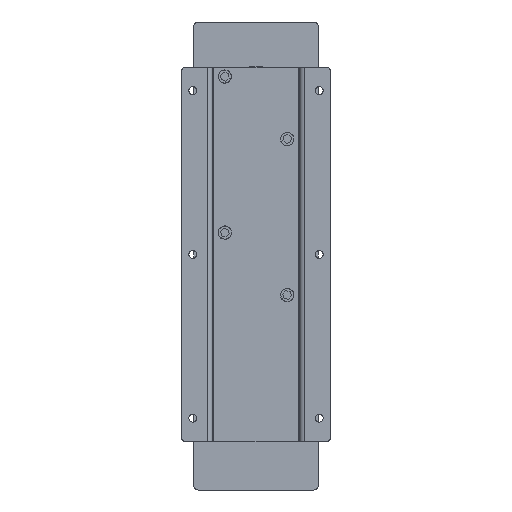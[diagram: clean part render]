
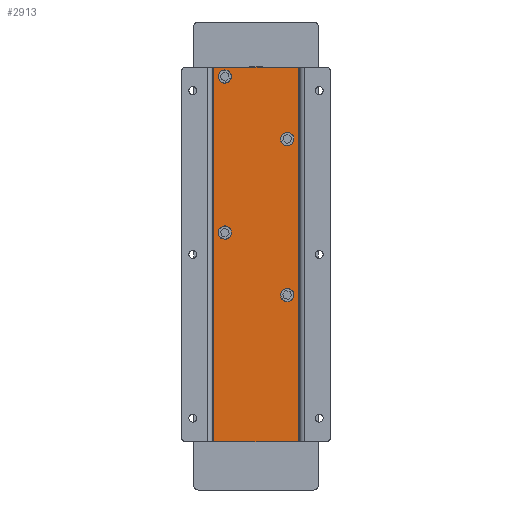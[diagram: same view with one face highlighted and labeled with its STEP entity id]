
A CAD part, left-side view. The second image highlights one B-rep face of the part: STEP entity #2913.
In plain terms, the highlighted planar face has unit normal (-1, 0, 0) as drawn and (0, 0, -1) by its records, which use the part's own axes.
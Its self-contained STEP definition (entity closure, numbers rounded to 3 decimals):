
#1100 = VERTEX_POINT ( 'NONE', #56157 ) ;
#1309 = DIRECTION ( 'NONE',  ( 1., 0., 0. ) ) ;
#1517 = DIRECTION ( 'NONE',  ( 0., 0., 1. ) ) ;
#2913 = ADVANCED_FACE ( 'NONE', ( #9020, #35696, #70942, #80184, #54189 ), #106247, .F. ) ;
#5431 = DIRECTION ( 'NONE',  ( 0., 0., 1. ) ) ;
#5525 = DIRECTION ( 'NONE',  ( 1., 0., 0. ) ) ;
#5997 = ORIENTED_EDGE ( 'NONE', *, *, #12697, .F. ) ;
#6297 = ORIENTED_EDGE ( 'NONE', *, *, #63717, .T. ) ;
#8879 = ORIENTED_EDGE ( 'NONE', *, *, #109573, .T. ) ;
#9020 = FACE_BOUND ( 'NONE', #103625, .T. ) ;
#9985 = CARTESIAN_POINT ( 'NONE',  ( -14., 20., -2. ) ) ;
#10864 = CARTESIAN_POINT ( 'NONE',  ( -110.75, 20., -2. ) ) ;
#12442 = VERTEX_POINT ( 'NONE', #81494 ) ;
#12697 = EDGE_CURVE ( 'NONE', #102023, #90568, #36306, .T. ) ;
#14645 = CIRCLE ( 'NONE', #79278, 3.25 ) ;
#14702 = ORIENTED_EDGE ( 'NONE', *, *, #37873, .T. ) ;
#14798 = CARTESIAN_POINT ( 'NONE',  ( -114., 20., -2. ) ) ;
#16177 = CARTESIAN_POINT ( 'NONE',  ( -120., 27., -2. ) ) ;
#16212 = EDGE_CURVE ( 'NONE', #63475, #105608, #68189, .T. ) ;
#17163 = ORIENTED_EDGE ( 'NONE', *, *, #83105, .F. ) ;
#17247 = ORIENTED_EDGE ( 'NONE', *, *, #68885, .F. ) ;
#18300 = DIRECTION ( 'NONE',  ( 0., 0., 1. ) ) ;
#18341 = DIRECTION ( 'NONE',  ( 0., 1., 0. ) ) ;
#19480 = CARTESIAN_POINT ( 'NONE',  ( -14., 20., -2. ) ) ;
#19806 = CARTESIAN_POINT ( 'NONE',  ( -17.25, 20., -2. ) ) ;
#20064 = DIRECTION ( 'NONE',  ( 0., 0., 1. ) ) ;
#20623 = CIRCLE ( 'NONE', #98241, 3.25 ) ;
#20744 = CARTESIAN_POINT ( 'NONE',  ( 26., -20., -2. ) ) ;
#21449 = AXIS2_PLACEMENT_3D ( 'NONE', #20744, #46792, #30593 ) ;
#22253 = AXIS2_PLACEMENT_3D ( 'NONE', #40778, #5431, #76023 ) ;
#23439 = AXIS2_PLACEMENT_3D ( 'NONE', #14798, #66902, #5525 ) ;
#24255 = CARTESIAN_POINT ( 'NONE',  ( -120., -27., -2. ) ) ;
#25190 = CIRCLE ( 'NONE', #21449, 3.25 ) ;
#26039 = CARTESIAN_POINT ( 'NONE',  ( -120., -27., -2. ) ) ;
#26591 = DIRECTION ( 'NONE',  ( 1., 0., 0. ) ) ;
#26669 = EDGE_CURVE ( 'NONE', #74527, #99713, #14645, .T. ) ;
#26739 = EDGE_CURVE ( 'NONE', #59026, #67546, #71868, .T. ) ;
#29381 = EDGE_CURVE ( 'NONE', #1100, #12442, #46296, .T. ) ;
#30593 = DIRECTION ( 'NONE',  ( 1., 0., 0. ) ) ;
#32177 = DIRECTION ( 'NONE',  ( 1., 0., 0. ) ) ;
#32308 = LINE ( 'NONE', #86013, #33210 ) ;
#33210 = VECTOR ( 'NONE', #57156, 1000. ) ;
#33594 = DIRECTION ( 'NONE',  ( 0., 0., 1. ) ) ;
#35593 = ORIENTED_EDGE ( 'NONE', *, *, #111538, .T. ) ;
#35696 = FACE_BOUND ( 'NONE', #45326, .T. ) ;
#36285 = EDGE_LOOP ( 'NONE', ( #6297, #101373 ) ) ;
#36306 = LINE ( 'NONE', #73259, #63289 ) ;
#37873 = EDGE_CURVE ( 'NONE', #99713, #74527, #62250, .T. ) ;
#40778 = CARTESIAN_POINT ( 'NONE',  ( -74., -20., -2. ) ) ;
#40815 = LINE ( 'NONE', #74366, #76547 ) ;
#44319 = AXIS2_PLACEMENT_3D ( 'NONE', #62289, #18300, #89426 ) ;
#45326 = EDGE_LOOP ( 'NONE', ( #78132, #8879 ) ) ;
#46296 = CIRCLE ( 'NONE', #22253, 3.25 ) ;
#46744 = CARTESIAN_POINT ( 'NONE',  ( 29.25, -20., -2. ) ) ;
#46792 = DIRECTION ( 'NONE',  ( 0., 0., 1. ) ) ;
#48602 = VERTEX_POINT ( 'NONE', #19806 ) ;
#48723 = ORIENTED_EDGE ( 'NONE', *, *, #49941, .T. ) ;
#49941 = EDGE_CURVE ( 'NONE', #48602, #99553, #111593, .T. ) ;
#50392 = CARTESIAN_POINT ( 'NONE',  ( 120., -27., -2. ) ) ;
#54189 = FACE_OUTER_BOUND ( 'NONE', #106902, .T. ) ;
#54292 = AXIS2_PLACEMENT_3D ( 'NONE', #9985, #82823, #1309 ) ;
#56069 = CIRCLE ( 'NONE', #94870, 3.25 ) ;
#56157 = CARTESIAN_POINT ( 'NONE',  ( -70.75, -20., -2. ) ) ;
#57156 = DIRECTION ( 'NONE',  ( -1., 0., 0. ) ) ;
#57991 = EDGE_LOOP ( 'NONE', ( #35593, #48723 ) ) ;
#59026 = VERTEX_POINT ( 'NONE', #64727 ) ;
#62250 = CIRCLE ( 'NONE', #23439, 3.25 ) ;
#62289 = CARTESIAN_POINT ( 'NONE',  ( 0., 0., -2. ) ) ;
#63289 = VECTOR ( 'NONE', #18341, 1000. ) ;
#63475 = VERTEX_POINT ( 'NONE', #16177 ) ;
#63717 = EDGE_CURVE ( 'NONE', #67546, #59026, #25190, .T. ) ;
#64727 = CARTESIAN_POINT ( 'NONE',  ( 22.75, -20., -2. ) ) ;
#65201 = CARTESIAN_POINT ( 'NONE',  ( -114., 20., -2. ) ) ;
#65576 = ORIENTED_EDGE ( 'NONE', *, *, #16212, .F. ) ;
#65766 = CARTESIAN_POINT ( 'NONE',  ( 26., -20., -2. ) ) ;
#66902 = DIRECTION ( 'NONE',  ( 0., 0., 1. ) ) ;
#66908 = DIRECTION ( 'NONE',  ( 1., 0., 0. ) ) ;
#67546 = VERTEX_POINT ( 'NONE', #46744 ) ;
#68189 = LINE ( 'NONE', #24255, #79805 ) ;
#68885 = EDGE_CURVE ( 'NONE', #90568, #63475, #32308, .T. ) ;
#70942 = FACE_BOUND ( 'NONE', #57991, .T. ) ;
#71868 = CIRCLE ( 'NONE', #108869, 3.25 ) ;
#72100 = DIRECTION ( 'NONE',  ( 1., 0., 0. ) ) ;
#72273 = CARTESIAN_POINT ( 'NONE',  ( -117.25, 20., -2. ) ) ;
#73259 = CARTESIAN_POINT ( 'NONE',  ( 120., -27., -2. ) ) ;
#74366 = CARTESIAN_POINT ( 'NONE',  ( 120., -27., -2. ) ) ;
#74527 = VERTEX_POINT ( 'NONE', #72273 ) ;
#75540 = DIRECTION ( 'NONE',  ( 1., 0., 0. ) ) ;
#76023 = DIRECTION ( 'NONE',  ( 1., 0., 0. ) ) ;
#76064 = ORIENTED_EDGE ( 'NONE', *, *, #26669, .T. ) ;
#76547 = VECTOR ( 'NONE', #32177, 1000. ) ;
#78132 = ORIENTED_EDGE ( 'NONE', *, *, #29381, .T. ) ;
#79100 = DIRECTION ( 'NONE',  ( 0., -1., 0. ) ) ;
#79278 = AXIS2_PLACEMENT_3D ( 'NONE', #65201, #20064, #75540 ) ;
#79805 = VECTOR ( 'NONE', #79100, 1000. ) ;
#80184 = FACE_BOUND ( 'NONE', #36285, .T. ) ;
#81494 = CARTESIAN_POINT ( 'NONE',  ( -77.25, -20., -2. ) ) ;
#82823 = DIRECTION ( 'NONE',  ( 0., 0., 1. ) ) ;
#83105 = EDGE_CURVE ( 'NONE', #105608, #102023, #40815, .T. ) ;
#86013 = CARTESIAN_POINT ( 'NONE',  ( 120., 27., -2. ) ) ;
#89426 = DIRECTION ( 'NONE',  ( 1., 0., 0. ) ) ;
#90568 = VERTEX_POINT ( 'NONE', #105757 ) ;
#94870 = AXIS2_PLACEMENT_3D ( 'NONE', #19480, #1517, #72100 ) ;
#95441 = CARTESIAN_POINT ( 'NONE',  ( -74., -20., -2. ) ) ;
#98241 = AXIS2_PLACEMENT_3D ( 'NONE', #95441, #33594, #26591 ) ;
#99553 = VERTEX_POINT ( 'NONE', #114491 ) ;
#99713 = VERTEX_POINT ( 'NONE', #10864 ) ;
#101373 = ORIENTED_EDGE ( 'NONE', *, *, #26739, .T. ) ;
#102023 = VERTEX_POINT ( 'NONE', #50392 ) ;
#103625 = EDGE_LOOP ( 'NONE', ( #14702, #76064 ) ) ;
#105608 = VERTEX_POINT ( 'NONE', #26039 ) ;
#105757 = CARTESIAN_POINT ( 'NONE',  ( 120., 27., -2. ) ) ;
#106247 = PLANE ( 'NONE',  #44319 ) ;
#106902 = EDGE_LOOP ( 'NONE', ( #65576, #17247, #5997, #17163 ) ) ;
#108869 = AXIS2_PLACEMENT_3D ( 'NONE', #65766, #112003, #66908 ) ;
#109573 = EDGE_CURVE ( 'NONE', #12442, #1100, #20623, .T. ) ;
#111538 = EDGE_CURVE ( 'NONE', #99553, #48602, #56069, .T. ) ;
#111593 = CIRCLE ( 'NONE', #54292, 3.25 ) ;
#112003 = DIRECTION ( 'NONE',  ( 0., 0., 1. ) ) ;
#114491 = CARTESIAN_POINT ( 'NONE',  ( -10.75, 20., -2. ) ) ;
